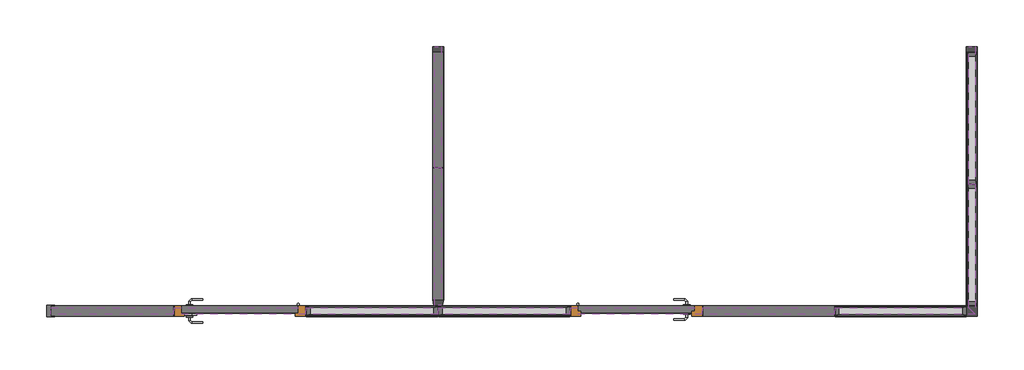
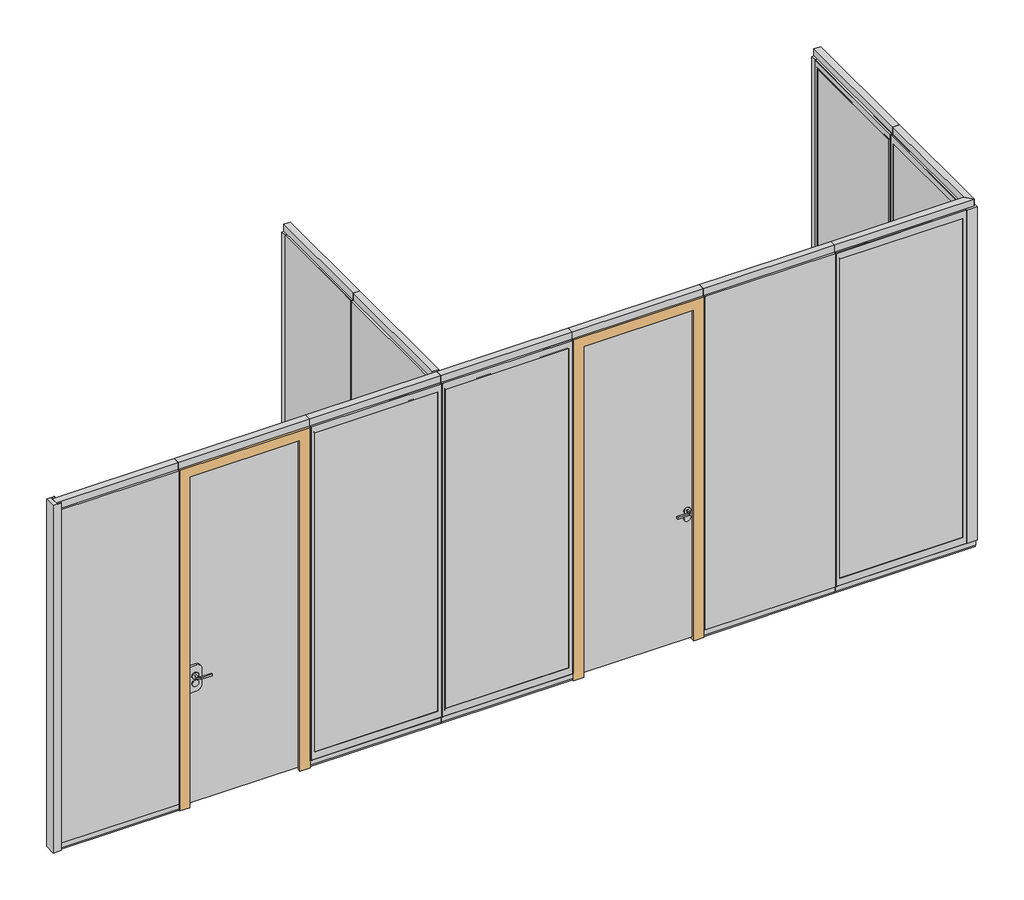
# One storey: 32 members, 10 plates, 2 doors, 2 proxies.
"""IFC4 building model written with IfcOpenShell, lengths in millimetres."""

from ifc_helpers import new_model, si_unit, origin, place, context, project, spatial, transform, mapped, element, save
from components import bat_m_3c3fd91e, bat_m_cc978436, door_ac8f3b1c, door_ac919ee7, member_d32c7b96, meneau_rectangulaire_bc42f1b9, meneau_rectangulaire_3b15cca5, meneau_rectangulaire_cdd06e90, meneau_rectangulaire_abafef46, meneau_rectangulaire_7c2227dd, meneau_rectangulaire_d973b6f6, meneau_rectangulaire_fba84aa1, meneau_rectangulaire_65046eaf, meneau_rectangulaire_62f85b1f, meneau_rectangulaire_c56fabd8, meneau_rectangulaire_e380cd77, meneau_rectangulaire_d2a1f88f, meneau_rectangulaire_f9d67303, meneau_rectangulaire_c82f2622, meneau_rectangulaire_51a0963e, meneau_rectangulaire_8a81fff2, plate_d8492dd5, plate_78c15b61, plate_1311bee8, plate_85_abm_140e1177, pnx_plein_85_m_0b1a7936, pnx_plein_85_m_2494bd28, pnx_plein_85_m_493c74b2, pnx_plein_85_m_cd444500

model = new_model("IFC4")

# Units and contexts
model_context = context("Model", 3, world=origin())
ifc_project = project(units=[si_unit("LENGTHUNIT", "METRE", prefix="MILLI")], contexts=[model_context])

# Site, building, storey
site = spatial("IfcSite", under=ifc_project)
building = spatial("IfcBuilding", under=site)
storey = spatial("IfcBuildingStorey", under=building, Name="Synops I", Elevation=0.0)

# Proxies
placement = place(None, origin())
bat_m_shape = bat_m_3c3fd91e(model_context)
element("IfcBuildingElementProxy", 1, Name="BAT-M : Défaut", ObjectType="BAT-M : Défaut", at=placement, inside=storey, context=model_context, shape_type="MappedRepresentation", body=[
    mapped(bat_m_shape, transform((-6168.6546418, -1843.2812949, 0.0), x_axis=(-1.0, 0.0, 0.0), y_axis=(0.0, -1.0, 0.0), z_axis=(0.0, 0.0, 1.0))),
])
bat_m_2_shape = bat_m_cc978436(model_context)
element("IfcBuildingElementProxy", 2, Name="BAT-M : 85-GOALFVITRE", ObjectType="BAT-M : 85-GOALFVITRE", at=placement, inside=storey, context=model_context, shape_type="MappedRepresentation", body=[
    mapped(bat_m_2_shape, transform((-8284.6546418, -1843.2812949, 0.0), x_axis=(1.0, 0.0, 0.0), y_axis=(0.0, 1.0, 0.0), z_axis=(0.0, 0.0, 1.0))),
])

# Doors
door_shape = door_ac8f3b1c(model_context)
element("IfcDoor", 3, ObjectType="PNX_PORTE-N-PTH : 85-PTHC55", at=placement, inside=storey, context=model_context, shape_type="MappedRepresentation", body=[
    mapped(door_shape, transform((-5726.6546418, -1884.7812949, 0.0), x_axis=(-1.0, 0.0, 0.0), y_axis=(0.0, -1.0, 0.0), z_axis=(0.0, 0.0, 1.0))),
])
door_2_shape = door_ac919ee7(model_context)
element("IfcDoor", 4, ObjectType="PNX_PORTE-N-PTH : 85-PTHC55", at=placement, inside=storey, context=model_context, shape_type="MappedRepresentation", body=[
    mapped(door_2_shape, transform((-8726.6546418, -1884.7812949, 0.0), x_axis=(1.0, 0.0, 0.0), y_axis=(0.0, 1.0, 0.0), z_axis=(0.0, 0.0, 1.0))),
])

# Members
member_shape = member_d32c7b96(model_context)
element("IfcMember", 5, ObjectType="Meneau d'angle en L : JONCTION-T2 85-T2CJ", at=placement, inside=storey, context=model_context, shape_type="MappedRepresentation", body=[
    mapped(member_shape, transform((-3188.1546418, -1884.7812949, 58.0), x_axis=(0.0, -1.0, 0.0), y_axis=(-1.0, 0.0, 0.0), z_axis=(0.0, 0.0, -1.0))),
])
meneau_rectangulaire_shape = meneau_rectangulaire_bc42f1b9(model_context)
element("IfcMember", 6, ObjectType="Meneau rectangulaire : LISSERIE_PLAFOND 85-KLP00-P80-SD57XC", at=placement, inside=storey, context=model_context, shape_type="MappedRepresentation", body=[
    mapped(meneau_rectangulaire_shape, transform((-5226.6546418, -1884.7812949, 2800.0), x_axis=(0.0, 0.0, 1.0), y_axis=(0.0, 1.0, 0.0), z_axis=(-1.0, 0.0, 0.0))),
])
element("IfcMember", 7, ObjectType="Meneau rectangulaire : LISSERIE_PLAFOND 85-KLP00-P80-SD57XC", at=placement, inside=storey, context=model_context, shape_type="MappedRepresentation", body=[
    mapped(meneau_rectangulaire_shape, transform((-6226.6546418, -1884.7812949, 2800.0), x_axis=(0.0, 0.0, 1.0), y_axis=(0.0, 1.0, 0.0), z_axis=(-1.0, 0.0, 0.0))),
])
element("IfcMember", 8, ObjectType="Meneau rectangulaire : LISSERIE_PLAFOND 85-KLP00-P80-SD57XC", at=placement, inside=storey, context=model_context, shape_type="MappedRepresentation", body=[
    mapped(meneau_rectangulaire_shape, transform((-7226.6546418, -1884.7812949, 2800.0), x_axis=(0.0, 0.0, 1.0), y_axis=(0.0, 1.0, 0.0), z_axis=(-1.0, 0.0, 0.0))),
])
element("IfcMember", 9, ObjectType="Meneau rectangulaire : LISSERIE_PLAFOND 85-KLP00-P80-SD57XC", at=placement, inside=storey, context=model_context, shape_type="MappedRepresentation", body=[
    mapped(meneau_rectangulaire_shape, transform((-8226.6546418, -1884.7812949, 2800.0), x_axis=(0.0, 0.0, 1.0), y_axis=(0.0, 1.0, 0.0), z_axis=(-1.0, 0.0, 0.0))),
])
element("IfcMember", 10, ObjectType="Meneau rectangulaire : LISSERIE_PLAFOND 85-KLP00-P80-SD57XC", at=placement, inside=storey, context=model_context, shape_type="MappedRepresentation", body=[
    mapped(meneau_rectangulaire_shape, transform((-9226.6546418, -1884.7812949, 2800.0), x_axis=(0.0, 0.0, 1.0), y_axis=(0.0, 1.0, 0.0), z_axis=(-1.0, 0.0, 0.0))),
])
meneau_rectangulaire_2_shape = meneau_rectangulaire_3b15cca5(model_context)
element("IfcMember", 11, ObjectType="Meneau rectangulaire : LISSERIE_SOL 85-KLS00-P80-RE58XC", at=placement, inside=storey, context=model_context, shape_type="MappedRepresentation", body=[
    mapped(meneau_rectangulaire_2_shape, transform((-3188.1546418, 115.2187051, 0.0), x_axis=(0.0, 0.0, -1.0), y_axis=(-1.0, 0.0, 0.0), z_axis=(0.0, 1.0, 0.0))),
])
element("IfcMember", 12, ObjectType="Meneau rectangulaire : LISSERIE_SOL 85-KLS00-P80-RE58XC", at=placement, inside=storey, context=model_context, shape_type="MappedRepresentation", body=[
    mapped(meneau_rectangulaire_2_shape, transform((-7226.6546418, -1843.2812949, 0.0), x_axis=(0.0, 0.0, -1.0), y_axis=(1.0, 0.0, 0.0), z_axis=(0.0, -1.0, 0.0))),
])
meneau_rectangulaire_3_shape = meneau_rectangulaire_cdd06e90(model_context)
element("IfcMember", 13, ObjectType="Meneau rectangulaire : LISSERIE_PLAFOND 85-KLP00-P80-SD57XC", at=placement, inside=storey, context=model_context, shape_type="MappedRepresentation", body=[
    mapped(meneau_rectangulaire_3_shape, transform((-7226.6546418, -801.7812949, 2800.0), x_axis=(0.0, 0.0, 1.0), y_axis=(1.0, 0.0, 0.0), z_axis=(0.0, 1.0, 0.0))),
])
element("IfcMember", 14, ObjectType="Meneau rectangulaire : LISSERIE_PLAFOND 85-KLP00-P80-SD57XC", at=placement, inside=storey, context=model_context, shape_type="MappedRepresentation", body=[
    mapped(meneau_rectangulaire_3_shape, transform((-3188.1546418, -926.2812949, 2800.0), x_axis=(0.0, 0.0, 1.0), y_axis=(-1.0, 0.0, 0.0), z_axis=(0.0, -1.0, 0.0))),
])
meneau_rectangulaire_4_shape = meneau_rectangulaire_abafef46(model_context)
element("IfcMember", 15, ObjectType="Meneau rectangulaire : LISSERIE_SOL 85-KLS00-P80-RE58XC", at=placement, inside=storey, context=model_context, shape_type="MappedRepresentation", body=[
    mapped(meneau_rectangulaire_4_shape, transform((-3188.1546418, -926.2812949, 0.0), x_axis=(0.0, 0.0, -1.0), y_axis=(-1.0, 0.0, 0.0), z_axis=(0.0, 1.0, 0.0))),
])
meneau_rectangulaire_5_shape = meneau_rectangulaire_7c2227dd(model_context)
element("IfcMember", 16, ObjectType="Meneau rectangulaire : LISSERIE_SOL 85-KLS00-P80-RE58XC", at=placement, inside=storey, context=model_context, shape_type="MappedRepresentation", body=[
    mapped(meneau_rectangulaire_5_shape, transform((-3188.1546418, -1884.7812949, 0.0), x_axis=(0.0, 0.0, -1.0), y_axis=(0.0, 1.0, 0.0), z_axis=(1.0, 0.0, 0.0))),
])
meneau_rectangulaire_6_shape = meneau_rectangulaire_d973b6f6(model_context)
element("IfcMember", 17, ObjectType="Meneau rectangulaire : LISSERIE_PLAFOND 85-KLP00-P80-SD57XC", at=placement, inside=storey, context=model_context, shape_type="MappedRepresentation", body=[
    mapped(meneau_rectangulaire_6_shape, transform((-3188.1546418, -1884.7812949, 2800.0), x_axis=(0.0, 0.0, 1.0), y_axis=(-1.0, 0.0, 0.0), z_axis=(0.0, -1.0, 0.0))),
])
meneau_rectangulaire_7_shape = meneau_rectangulaire_fba84aa1(model_context)
element("IfcMember", 18, ObjectType="Meneau rectangulaire : LISSERIE_PLAFOND 85-KLP00-P80-SD57XC", at=placement, inside=storey, context=model_context, shape_type="MappedRepresentation", body=[
    mapped(meneau_rectangulaire_7_shape, transform((-4226.6546418, -1884.7812949, 2800.0), x_axis=(0.0, 0.0, 1.0), y_axis=(0.0, 1.0, 0.0), z_axis=(-1.0, 0.0, 0.0))),
])
meneau_rectangulaire_8_shape = meneau_rectangulaire_65046eaf(model_context)
element("IfcMember", 19, ObjectType="Meneau rectangulaire : LISSERIE_SOL 85-KLS00-P80-RE58XC", at=placement, inside=storey, context=model_context, shape_type="MappedRepresentation", body=[
    mapped(meneau_rectangulaire_8_shape, transform((-7226.6546418, -801.7812949, 0.0), x_axis=(0.0, 0.0, -1.0), y_axis=(1.0, 0.0, 0.0), z_axis=(0.0, -1.0, 0.0))),
])
meneau_rectangulaire_9_shape = meneau_rectangulaire_62f85b1f(model_context)
element("IfcMember", 20, ObjectType="Meneau rectangulaire : LISSERIE_PLAFOND 85-KLP00-P80-SD57XC", at=placement, inside=storey, context=model_context, shape_type="MappedRepresentation", body=[
    mapped(meneau_rectangulaire_9_shape, transform((-7226.6546418, 115.2187051, 2800.0), x_axis=(0.0, 0.0, 1.0), y_axis=(1.0, 0.0, 0.0), z_axis=(0.0, 1.0, 0.0))),
])
meneau_rectangulaire_10_shape = meneau_rectangulaire_c56fabd8(model_context)
element("IfcMember", 21, ObjectType="Meneau rectangulaire : LISSERIE_SOL 85-KLS00-P80-RE58XC", at=placement, inside=storey, context=model_context, shape_type="MappedRepresentation", body=[
    mapped(meneau_rectangulaire_10_shape, transform((-4226.6546418, -1884.7812949, 0.0), x_axis=(0.0, 0.0, -1.0), y_axis=(0.0, 1.0, 0.0), z_axis=(1.0, 0.0, 0.0))),
])
element("IfcMember", 22, ObjectType="Meneau rectangulaire : LISSERIE_SOL 85-KLS00-P80-RE58XC", at=placement, inside=storey, context=model_context, shape_type="MappedRepresentation", body=[
    mapped(meneau_rectangulaire_10_shape, transform((-7226.6546418, -1884.7812949, 0.0), x_axis=(0.0, 0.0, -1.0), y_axis=(0.0, 1.0, 0.0), z_axis=(1.0, 0.0, 0.0))),
])
element("IfcMember", 23, ObjectType="Meneau rectangulaire : LISSERIE_SOL 85-KLS00-P80-RE58XC", at=placement, inside=storey, context=model_context, shape_type="MappedRepresentation", body=[
    mapped(meneau_rectangulaire_10_shape, transform((-6223.6546418, -1884.7812949, 0.0), x_axis=(0.0, 0.0, -1.0), y_axis=(0.0, 1.0, 0.0), z_axis=(1.0, 0.0, 0.0))),
])
meneau_rectangulaire_11_shape = meneau_rectangulaire_e380cd77(model_context)
element("IfcMember", 24, ObjectType="Meneau rectangulaire : JONCTION-T1 85-T1", at=placement, inside=storey, context=model_context, shape_type="MappedRepresentation", body=[
    mapped(meneau_rectangulaire_11_shape, transform((-8226.6546418, -1884.7812949, 58.0), x_axis=(-1.0, 0.0, 0.0), y_axis=(0.0, 1.0, 0.0), z_axis=(0.0, 0.0, -1.0))),
])
element("IfcMember", 25, ObjectType="Meneau rectangulaire : JONCTION-T1 85-T1", at=placement, inside=storey, context=model_context, shape_type="MappedRepresentation", body=[
    mapped(meneau_rectangulaire_11_shape, transform((-9226.6546418, -1884.7812949, 58.0), x_axis=(-1.0, 0.0, 0.0), y_axis=(0.0, 1.0, 0.0), z_axis=(0.0, 0.0, -1.0))),
])
element("IfcMember", 26, ObjectType="Meneau rectangulaire : JONCTION-T1 85-T1", at=placement, inside=storey, context=model_context, shape_type="MappedRepresentation", body=[
    mapped(meneau_rectangulaire_11_shape, transform((-7226.6546418, -801.7812949, 58.0), x_axis=(0.0, 1.0, 0.0), y_axis=(1.0, 0.0, 0.0), z_axis=(0.0, 0.0, -1.0))),
])
element("IfcMember", 27, ObjectType="Meneau rectangulaire : JONCTION-T1 85-T1", at=placement, inside=storey, context=model_context, shape_type="MappedRepresentation", body=[
    mapped(meneau_rectangulaire_11_shape, transform((-3188.1546418, -926.2812949, 58.0), x_axis=(0.0, -1.0, 0.0), y_axis=(-1.0, 0.0, 0.0), z_axis=(0.0, 0.0, -1.0))),
])
element("IfcMember", 28, ObjectType="Meneau rectangulaire : JONCTION-T1 85-T1", at=placement, inside=storey, context=model_context, shape_type="MappedRepresentation", body=[
    mapped(meneau_rectangulaire_11_shape, transform((-4226.6546418, -1884.7812949, 58.0), x_axis=(-1.0, 0.0, 0.0), y_axis=(0.0, 1.0, 0.0), z_axis=(0.0, 0.0, -1.0))),
])
element("IfcMember", 29, ObjectType="Meneau rectangulaire : JONCTION-T1 85-T1", at=placement, inside=storey, context=model_context, shape_type="MappedRepresentation", body=[
    mapped(meneau_rectangulaire_11_shape, transform((-5226.6546418, -1884.7812949, 58.0), x_axis=(-1.0, 0.0, 0.0), y_axis=(0.0, 1.0, 0.0), z_axis=(0.0, 0.0, -1.0))),
])
element("IfcMember", 30, ObjectType="Meneau rectangulaire : JONCTION-T1 85-T1", at=placement, inside=storey, context=model_context, shape_type="MappedRepresentation", body=[
    mapped(meneau_rectangulaire_11_shape, transform((-6226.6546418, -1884.7812949, 58.0), x_axis=(-1.0, 0.0, 0.0), y_axis=(0.0, 1.0, 0.0), z_axis=(0.0, 0.0, -1.0))),
])
element("IfcMember", 31, ObjectType="Meneau rectangulaire : JONCTION-T1 85-T1", at=placement, inside=storey, context=model_context, shape_type="MappedRepresentation", body=[
    mapped(meneau_rectangulaire_11_shape, transform((-7226.6546418, -1884.7812949, 58.0), x_axis=(-1.0, 0.0, 0.0), y_axis=(0.0, 1.0, 0.0), z_axis=(0.0, 0.0, -1.0))),
])
meneau_rectangulaire_12_shape = meneau_rectangulaire_d2a1f88f(model_context)
element("IfcMember", 32, ObjectType="Meneau rectangulaire : JONCTION-ME 85-ME", at=placement, inside=storey, context=model_context, shape_type="MappedRepresentation", body=[
    mapped(meneau_rectangulaire_12_shape, transform((-3188.1546418, 115.2187051, 2743.0), x_axis=(0.0, 1.0, 0.0), y_axis=(-1.0, 0.0, 0.0), z_axis=(0.0, 0.0, 1.0))),
])
meneau_rectangulaire_13_shape = meneau_rectangulaire_f9d67303(model_context)
element("IfcMember", 33, ObjectType="Meneau rectangulaire : JONCTION-ME 85-ME", at=placement, inside=storey, context=model_context, shape_type="MappedRepresentation", body=[
    mapped(meneau_rectangulaire_13_shape, transform((-7226.6546418, 115.2187051, 58.0), x_axis=(0.0, 1.0, 0.0), y_axis=(1.0, 0.0, 0.0), z_axis=(0.0, 0.0, -1.0))),
])
meneau_rectangulaire_14_shape = meneau_rectangulaire_c82f2622(model_context)
element("IfcMember", 34, ObjectType="Meneau rectangulaire : JONCTION-T3S-GAUCHE 85-T3S", at=placement, inside=storey, context=model_context, shape_type="MappedRepresentation", body=[
    mapped(meneau_rectangulaire_14_shape, transform((-7226.6546418, -1843.2812949, 2743.0), x_axis=(0.0, -1.0, 0.0), y_axis=(1.0, 0.0, 0.0), z_axis=(0.0, 0.0, 1.0))),
])
meneau_rectangulaire_15_shape = meneau_rectangulaire_51a0963e(model_context)
element("IfcMember", 35, ObjectType="Meneau rectangulaire : LISSERIE_SOL 85-KLS00-P80-RE58XC", at=placement, inside=storey, context=model_context, shape_type="MappedRepresentation", body=[
    mapped(meneau_rectangulaire_15_shape, transform((-9223.6546418, -1884.7812949, 0.0), x_axis=(0.0, 0.0, -1.0), y_axis=(0.0, 1.0, 0.0), z_axis=(1.0, 0.0, 0.0))),
])
meneau_rectangulaire_16_shape = meneau_rectangulaire_8a81fff2(model_context)
element("IfcMember", 36, ObjectType="Meneau rectangulaire : LISSERIE_PLAFOND 85-KLP00-P80-SD57XC", at=placement, inside=storey, context=model_context, shape_type="MappedRepresentation", body=[
    mapped(meneau_rectangulaire_16_shape, transform((-10156.1546418, -1884.7812949, 2800.0), x_axis=(0.0, 0.0, 1.0), y_axis=(0.0, 1.0, 0.0), z_axis=(-1.0, 0.0, 0.0))),
])

# Plates
plate_shape = plate_d8492dd5(model_context)
element("IfcPlate", 37, ObjectType="PNX_VITRE-TH : 85-MVDVAL", at=placement, inside=storey, context=model_context, shape_type="MappedRepresentation", body=[
    mapped(plate_shape, transform((-3188.1546418, -426.2812949, 58.0), x_axis=(0.0, -1.0, 0.0), y_axis=(1.0, 0.0, 0.0), z_axis=(0.0, 0.0, 1.0))),
])
element("IfcPlate", 38, ObjectType="PNX_VITRE-TH : 85-MVDVAL", at=placement, inside=storey, context=model_context, shape_type="MappedRepresentation", body=[
    mapped(plate_shape, transform((-3726.6546418, -1884.7812949, 58.0), x_axis=(-1.0, 0.0, 0.0), y_axis=(0.0, -1.0, 0.0), z_axis=(0.0, 0.0, 1.0))),
])
plate_2_shape = plate_78c15b61(model_context)
element("IfcPlate", 39, ObjectType="PNX_VITRE-TH : 85-MVDVAL", at=placement, inside=storey, context=model_context, shape_type="MappedRepresentation", body=[
    mapped(plate_2_shape, transform((-6726.6546418, -1884.7812949, 58.0), x_axis=(-1.0, 0.0, 0.0), y_axis=(0.0, -1.0, 0.0), z_axis=(0.0, 0.0, 1.0))),
])
element("IfcPlate", 40, ObjectType="PNX_VITRE-TH : 85-MVDVAL", at=placement, inside=storey, context=model_context, shape_type="MappedRepresentation", body=[
    mapped(plate_2_shape, transform((-7726.6546418, -1884.7812949, 58.0), x_axis=(-1.0, 0.0, 0.0), y_axis=(0.0, -1.0, 0.0), z_axis=(0.0, 0.0, 1.0))),
])
plate_3_shape = plate_1311bee8(model_context)
element("IfcPlate", 41, ObjectType="PNX_VITRE-TH : 85-MVDVAL", at=placement, inside=storey, context=model_context, shape_type="MappedRepresentation", body=[
    mapped(plate_3_shape, transform((-3188.1546418, -1386.2812949, 58.0), x_axis=(0.0, -1.0, 0.0), y_axis=(1.0, 0.0, 0.0), z_axis=(0.0, 0.0, 1.0))),
])
plate_85_abm_shape = plate_85_abm_140e1177(model_context)
element("IfcPlate", 42, ObjectType="PERIPH-ABM_U-MUR-M : 85-ABM", at=placement, inside=storey, context=model_context, shape_type="MappedRepresentation", body=[
    mapped(plate_85_abm_shape, transform((-10172.1546418, -1884.7812949, 0.0), x_axis=(1.0, 0.0, 0.0), y_axis=(0.0, 1.0, 0.0), z_axis=(0.0, 0.0, 1.0))),
])
pnx_plein_85_m_shape = pnx_plein_85_m_0b1a7936(model_context)
element("IfcPlate", 43, ObjectType="PNX_PLEIN : 85-M", at=placement, inside=storey, context=model_context, shape_type="MappedRepresentation", body=[
    mapped(pnx_plein_85_m_shape, transform((-4726.6546418, -1884.7812949, 58.0), x_axis=(1.0, 0.0, 0.0), y_axis=(0.0, 1.0, 0.0), z_axis=(0.0, 0.0, 1.0))),
])
pnx_plein_85_m_2_shape = pnx_plein_85_m_2494bd28(model_context)
element("IfcPlate", 44, ObjectType="PNX_PLEIN : 85-M", at=placement, inside=storey, context=model_context, shape_type="MappedRepresentation", body=[
    mapped(pnx_plein_85_m_2_shape, transform((-9692.9046418, -1884.7812949, 58.0), x_axis=(1.0, 0.0, 0.0), y_axis=(0.0, 1.0, 0.0), z_axis=(0.0, 0.0, 1.0))),
])
pnx_plein_85_m_3_shape = pnx_plein_85_m_493c74b2(model_context)
element("IfcPlate", 45, ObjectType="PNX_PLEIN : 85-M", at=placement, inside=storey, context=model_context, shape_type="MappedRepresentation", body=[
    mapped(pnx_plein_85_m_3_shape, transform((-7226.6546418, -1301.7812949, 58.0), x_axis=(0.0, 1.0, 0.0), y_axis=(-1.0, 0.0, 0.0), z_axis=(0.0, 0.0, 1.0))),
])
pnx_plein_85_m_4_shape = pnx_plein_85_m_cd444500(model_context)
element("IfcPlate", 46, ObjectType="PNX_PLEIN : 85-M", at=placement, inside=storey, context=model_context, shape_type="MappedRepresentation", body=[
    mapped(pnx_plein_85_m_4_shape, transform((-7226.6546418, -364.0312949, 58.0), x_axis=(0.0, 1.0, 0.0), y_axis=(-1.0, 0.0, 0.0), z_axis=(0.0, 0.0, 1.0))),
])

save(model, "model.ifc")
